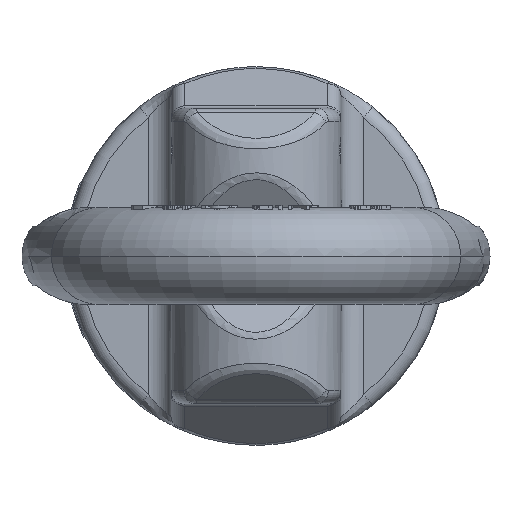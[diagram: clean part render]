
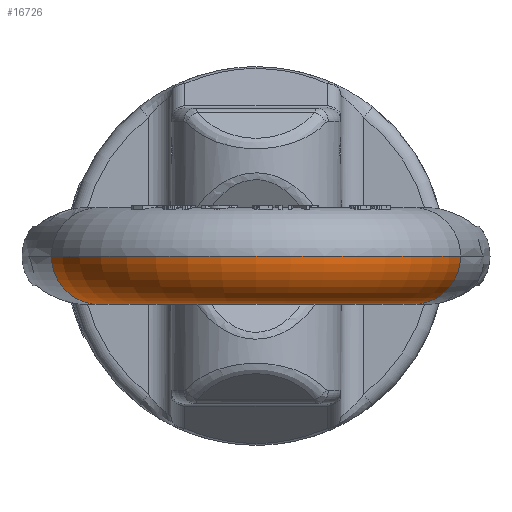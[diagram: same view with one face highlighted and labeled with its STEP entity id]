
A CAD part, left-side view. The second image highlights one B-rep face of the part: STEP entity #16726.
In plain terms, the highlighted toroidal (fillet/blend) face has major radius 35.5 mm and minor radius 10.5 mm.
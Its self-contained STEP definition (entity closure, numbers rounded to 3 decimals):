
#11496=CARTESIAN_POINT('',(-105.,0.,0.));
#11497=DIRECTION('',(0.,0.,1.));
#11498=DIRECTION('',(-0.246,0.969,0.));
#11499=AXIS2_PLACEMENT_3D('',#11496,#11497,#11498);
#12684=CARTESIAN_POINT('',(-113.738,-34.408,0.));
#12685=DIRECTION('',(0.969,-0.246,0.));
#12686=DIRECTION('',(-0.246,-0.969,0.));
#12687=AXIS2_PLACEMENT_3D('',#12684,#12685,#12686);
#13114=CARTESIAN_POINT('',(-113.738,34.408,0.));
#13115=DIRECTION('',(-0.969,-0.246,0.));
#13116=DIRECTION('',(-0.246,0.969,0.));
#13117=AXIS2_PLACEMENT_3D('',#13114,#13115,#13116);
#13119=CARTESIAN_POINT('',(-105.,0.,0.));
#13120=DIRECTION('',(0.,0.,1.));
#13121=DIRECTION('',(-0.246,0.969,0.));
#13122=AXIS2_PLACEMENT_3D('',#13119,#13120,#13121);
#15306=CARTESIAN_POINT('',(-111.154,24.231,0.));
#15307=CARTESIAN_POINT('',(-116.323,44.585,0.));
#15308=VERTEX_POINT('',#15306);
#15309=VERTEX_POINT('',#15307);
#15310=CARTESIAN_POINT('',(-111.154,-24.231,0.));
#15311=CARTESIAN_POINT('',(-116.323,-44.585,0.));
#15312=VERTEX_POINT('',#15310);
#15313=VERTEX_POINT('',#15311);
#16715=CARTESIAN_POINT('',(-105.,0.,0.));
#16716=DIRECTION('',(0.,0.,1.));
#16717=DIRECTION('',(0.246,-0.969,0.));
#16718=AXIS2_PLACEMENT_3D('',#16715,#16716,#16717);
#16719=TOROIDAL_SURFACE('',#16718,35.5,10.5);
#16720=ORIENTED_EDGE('',*,*,#16511,.F.);
#16721=ORIENTED_EDGE('',*,*,#16148,.T.);
#16722=ORIENTED_EDGE('',*,*,#16545,.T.);
#16723=ORIENTED_EDGE('',*,*,#16145,.F.);
#16724=EDGE_LOOP('',(#16720,#16721,#16722,#16723));
#16725=FACE_OUTER_BOUND('',#16724,.F.);
#16726=ADVANCED_FACE('',(#16725),#16719,.T.);
#11500=CIRCLE('',#11499,25.);
#12688=CIRCLE('',#12687,10.5);
#13118=CIRCLE('',#13117,10.5);
#13123=CIRCLE('',#13122,46.);
#16145=EDGE_CURVE('',#15308,#15312,#11500,.T.);
#16148=EDGE_CURVE('',#15309,#15313,#13123,.T.);
#16511=EDGE_CURVE('',#15309,#15308,#13118,.T.);
#16545=EDGE_CURVE('',#15313,#15312,#12688,.T.);
